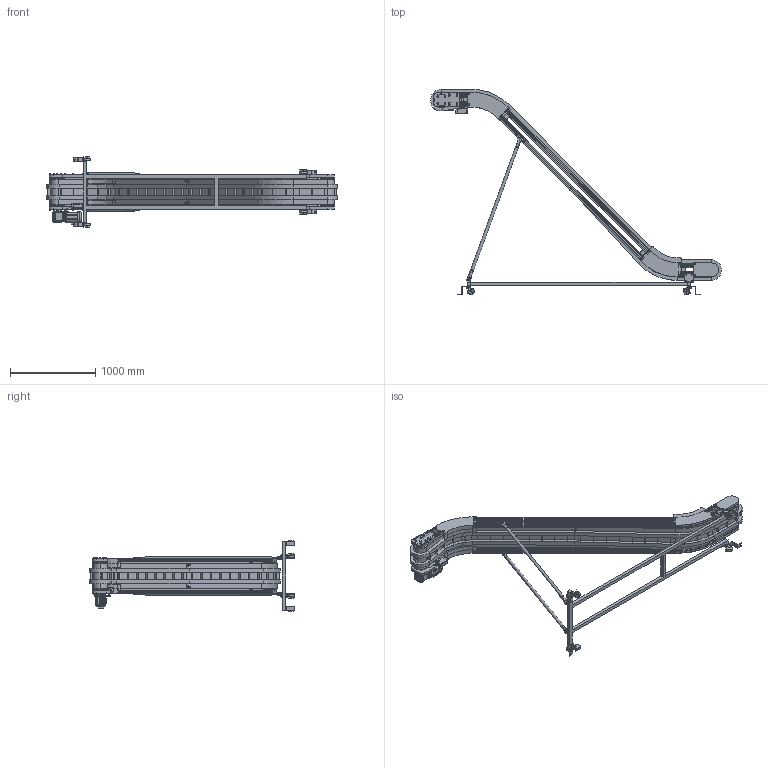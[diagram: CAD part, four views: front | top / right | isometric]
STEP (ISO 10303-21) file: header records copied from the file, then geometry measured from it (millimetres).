
FILE_DESCRIPTION( (''), '2;1');
FILE_NAME ('SMMX3-A-340-300-200-45°-K-80.stp','2025-02-17T14:57:49',(''),(''),'spGate 20.6.2 (****-****-****-****)','','');
FILE_SCHEMA (('AUTOMOTIVE_DESIGN'));
Length unit declared in the file: millimetre
Products named in the file (47): NewModel; TEMP_X_T-prt0; TEMP_X_T-prt1; TEMP_X_T-prt2; TEMP_X_T-prt3; TEMP_X_T-prt4; TEMP_X_T-prt5; TEMP_X_T-prt6; TEMP_X_T-prt7; TEMP_X_T-prt8; TEMP_X_T-prt9; TEMP_X_T-prt10; TEMP_X_T-prt11; TEMP_X_T-prt12; TEMP_X_T-prt13; TEMP_X_T-prt14; TEMP_X_T-prt15; TEMP_X_T-prt16; TEMP_X_T-prt17; TEMP_X_T-prt18; TEMP_X_T-prt19; TEMP_X_T-prt20; TEMP_X_T-prt21; TEMP_X_T-prt22; TEMP_X_T-prt23; TEMP_X_T-prt24; TEMP_X_T-prt25; TEMP_X_T-prt26; TEMP_X_T-prt27; TEMP_X_T-prt28; TEMP_X_T-prt29; TEMP_X_T-prt30; TEMP_X_T-prt31; TEMP_X_T-prt32; TEMP_X_T-prt33; TEMP_X_T-prt34; TEMP_X_T-prt35; TEMP_X_T-prt36; TEMP_X_T-prt37; TEMP_X_T-prt38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
Assembly tree (46 placements, depth 2):
  NewModel
    TEMP_X_T-prt0
    TEMP_X_T-prt1
    TEMP_X_T-prt2
    TEMP_X_T-prt3
    TEMP_X_T-prt4
    TEMP_X_T-prt5
    TEMP_X_T-prt6
    TEMP_X_T-prt7
    TEMP_X_T-prt8
    TEMP_X_T-prt9
    TEMP_X_T-prt10
    TEMP_X_T-prt11
    TEMP_X_T-prt12
    TEMP_X_T-prt13
    TEMP_X_T-prt14
    TEMP_X_T-prt15
    TEMP_X_T-prt16
    TEMP_X_T-prt17
    TEMP_X_T-prt18
    TEMP_X_T-prt19
    TEMP_X_T-prt20
    TEMP_X_T-prt21
    TEMP_X_T-prt22
    TEMP_X_T-prt23
    TEMP_X_T-prt24
    TEMP_X_T-prt25
    TEMP_X_T-prt26
    TEMP_X_T-prt27
    TEMP_X_T-prt28
    TEMP_X_T-prt29
    TEMP_X_T-prt30
    TEMP_X_T-prt31
    TEMP_X_T-prt32
    TEMP_X_T-prt33
    TEMP_X_T-prt34
    TEMP_X_T-prt35
    TEMP_X_T-prt36
    TEMP_X_T-prt37
    TEMP_X_T-prt38
    TEMP_X_T-prt39
    TEMP_X_T-prt40
    TEMP_X_T-prt41
    TEMP_X_T-prt42
    TEMP_X_T-prt43
    TEMP_X_T-prt44
    TEMP_X_T-prt45
Bounding box: 3421.46 x 2411.65 x 830 mm (x, y, z)
Volume: 101496678.6 mm3; surface area: 16470855 mm2
Topology: 46 solids, 46 shells, 2839 faces, 7161 edges, 4644 vertices
Faces by surface type: plane 2291, cylinder 494, bspline 54
Entity records: 144130 total; most frequent: CARTESIAN_POINT 16402, ORIENTED_EDGE 14322, DIRECTION 13683, COLOUR_RGB 10046, PRESENTATION_STYLE_ASSIGNMENT 10046, STYLED_ITEM 10046, EDGE_CURVE 7161, DRAUGHTING_PRE_DEFINED_CURVE_FONT 7161
